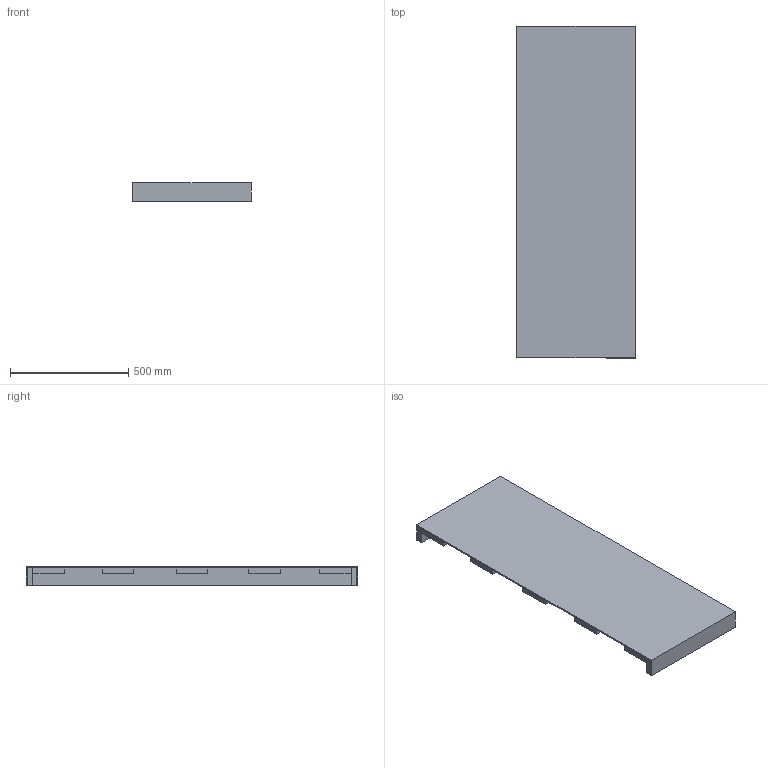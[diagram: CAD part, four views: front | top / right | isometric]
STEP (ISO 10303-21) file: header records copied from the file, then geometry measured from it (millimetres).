
FILE_DESCRIPTION(/* description */ (''),/* implementation_level */ '2;1');
FILE_NAME(/* name */ 'H41913x',/* time_stamp */ '2025-03-13T10:00:29+01:00',/* author */ (''),/* organization */ (''),/* preprocessor_version */ 'ST-DEVELOPER v16.5',/* originating_system */ 'Rhino 7.38',/* authorisation */ '');
FILE_SCHEMA (('AUTOMOTIVE_DESIGN'));
Length unit declared in the file: centimetre
Products named in the file (1): Document
Bounding box: 504 x 1406 x 80 mm (x, y, z)
Volume: 16554790 mm3; surface area: 3031290 mm2
Topology: 9 solids, 9 shells, 58 faces, 120 edges, 80 vertices
Faces by surface type: plane 58
Entity records: 1337 total; most frequent: CARTESIAN_POINT 380, ORIENTED_EDGE 240, EDGE_CURVE 120, B_SPLINE_CURVE_WITH_KNOTS 120, VERTEX_POINT 80, DIRECTION 62, AXIS2_PLACEMENT_3D 60, ADVANCED_FACE 58
